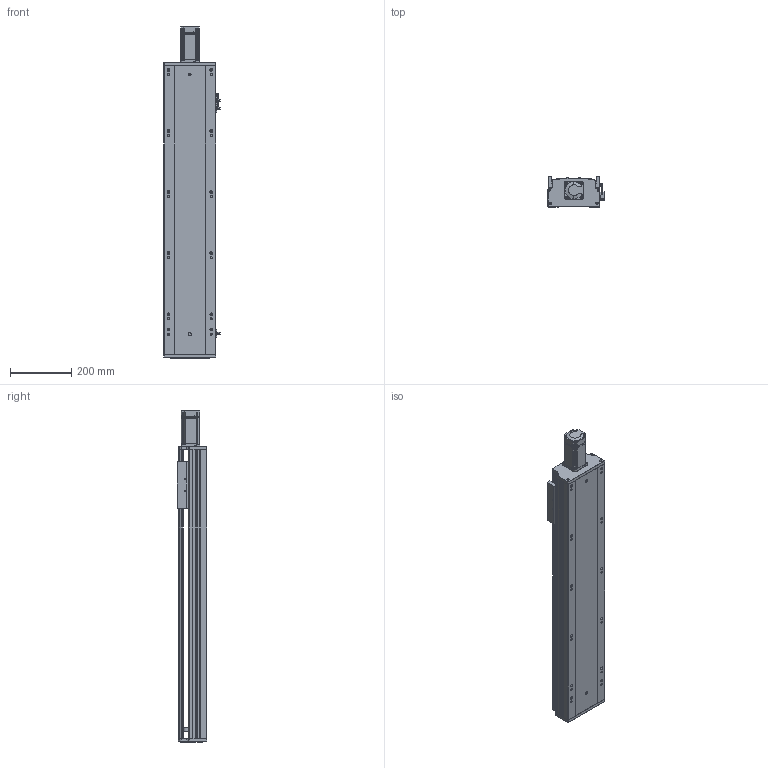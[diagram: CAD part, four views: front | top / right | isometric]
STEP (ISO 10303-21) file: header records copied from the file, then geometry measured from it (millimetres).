
FILE_DESCRIPTION (( 'STEP AP203' ), '1' );
FILE_NAME ('RY170Q-L2020-400-MK.SLDASM_0700.step', '2021-05-31T02:02:42', ( '盈信电脑' ), ( '东莞市道滘镇水果街19号' ), 'SwSTEP 2.0', 'SolidWorks 2016', '' );
FILE_SCHEMA (( 'CONFIG_CONTROL_DESIGN' ));
Length unit declared in the file: millimetre
Products named in the file (12): RY170Q-400倰第裔啣-MK_0700; 滅袉蝶18-15; 侂狟400W侜督萇儂; 覜茼ん672; RY170Q-L2020-400-MK.SLDASM_0700; RY170ヶ醱裔啣; RY170外置感应片(200共用）; 滅袉蝶18-10; RY170綴裔啣; RY170Q-400倰第菁釱-MK_0700; RY170Q臏賑輸20佪裝蹟譫(FK15); 15
Assembly tree (14 placements, depth 3):
  RY170Q-L2020-400-MK.SLDASM_0700
    RY170Q-400倰第菁釱-MK_0700
    RY170Q-400倰第裔啣-MK_0700
    RY170Q臏賑輸20佪裝蹟譫(FK15)
    侂狟400W侜督萇儂
      15
    RY170綴裔啣
    覜茼ん672  x3
    RY170外置感应片(200共用）
    RY170ヶ醱裔啣
    滅袉蝶18-15  x2
    滅袉蝶18-10
Bounding box: 183.7 x 97 x 1086.5 mm (x, y, z)
Volume: 4958467.8 mm3; surface area: 1601267.3 mm2
Topology: 13 solids, 13 shells, 2168 faces, 6171 edges, 3985 vertices
Faces by surface type: plane 1185, cylinder 781, cone 173, bspline 29
Entity records: 68046 total; most frequent: CARTESIAN_POINT 14905, ORIENTED_EDGE 11098, DIRECTION 10532, EDGE_CURVE 5549, VERTEX_POINT 3653, LINE 3600, VECTOR 3600, AXIS2_PLACEMENT_3D 3466
